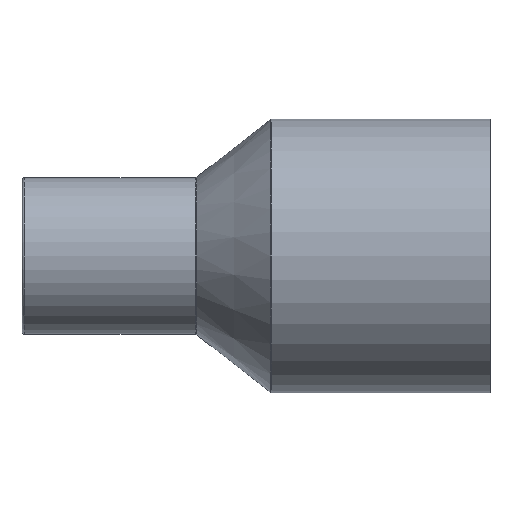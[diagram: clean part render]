
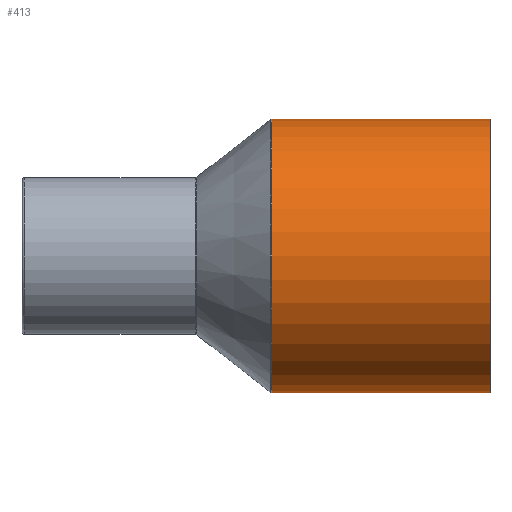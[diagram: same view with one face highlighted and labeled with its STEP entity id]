
A CAD part, front view. The second image highlights one B-rep face of the part: STEP entity #413.
In plain terms, the highlighted cylindrical face has radius 55 mm (diameter 110 mm), a partial arc.
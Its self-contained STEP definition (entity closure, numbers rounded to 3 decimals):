
#13 = CIRCLE ( 'NONE', #661, 55. ) ;
#27 = ORIENTED_EDGE ( 'NONE', *, *, #420, .F. ) ;
#28 = ORIENTED_EDGE ( 'NONE', *, *, #439, .F. ) ;
#29 = ORIENTED_EDGE ( 'NONE', *, *, #431, .T. ) ;
#30 = ORIENTED_EDGE ( 'NONE', *, *, #437, .T. ) ;
#100 = CYLINDRICAL_SURFACE ( 'NONE', #156, 55. ) ;
#105 = FACE_OUTER_BOUND ( 'NONE', #464, .T. ) ;
#107 = DIRECTION ( 'NONE',  ( -1., 0., 0. ) ) ;
#108 = CARTESIAN_POINT ( 'NONE',  ( 188., 0., 0. ) ) ;
#109 = DIRECTION ( 'NONE',  ( 0., 0., 1. ) ) ;
#126 = LINE ( 'NONE', #133, #396 ) ;
#133 = CARTESIAN_POINT ( 'NONE',  ( 188., 0., -55. ) ) ;
#134 = DIRECTION ( 'NONE',  ( -1., 0., 0. ) ) ;
#155 = CIRCLE ( 'NONE', #696, 55. ) ;
#156 = AXIS2_PLACEMENT_3D ( 'NONE', #108, #107, #109 ) ;
#244 = LINE ( 'NONE', #245, #697 ) ;
#245 = CARTESIAN_POINT ( 'NONE',  ( 188., 0., 55. ) ) ;
#331 = CARTESIAN_POINT ( 'NONE',  ( 188., 0., -55. ) ) ;
#346 = CARTESIAN_POINT ( 'NONE',  ( 100.345, 0., 55. ) ) ;
#347 = CARTESIAN_POINT ( 'NONE',  ( 100.345, 0., -55. ) ) ;
#349 = CARTESIAN_POINT ( 'NONE',  ( 188., 0., 55. ) ) ;
#361 = DIRECTION ( 'NONE',  ( -1., 0., 0. ) ) ;
#396 = VECTOR ( 'NONE', #134, 1000. ) ;
#413 = ADVANCED_FACE ( 'NONE', ( #105 ), #100, .T. ) ;
#420 = EDGE_CURVE ( 'NONE', #566, #569, #126, .T. ) ;
#431 = EDGE_CURVE ( 'NONE', #571, #568, #244, .T. ) ;
#437 = EDGE_CURVE ( 'NONE', #568, #569, #155, .T. ) ;
#439 = EDGE_CURVE ( 'NONE', #571, #566, #13, .T. ) ;
#464 = EDGE_LOOP ( 'NONE', ( #27, #28, #29, #30 ) ) ;
#566 = VERTEX_POINT ( 'NONE', #331 ) ;
#568 = VERTEX_POINT ( 'NONE', #346 ) ;
#569 = VERTEX_POINT ( 'NONE', #347 ) ;
#571 = VERTEX_POINT ( 'NONE', #349 ) ;
#661 = AXIS2_PLACEMENT_3D ( 'NONE', #679, #680, #681 ) ;
#673 = CARTESIAN_POINT ( 'NONE',  ( 100.345, 0., 0. ) ) ;
#674 = DIRECTION ( 'NONE',  ( 1., 0., 0. ) ) ;
#675 = DIRECTION ( 'NONE',  ( 0., 0., 1. ) ) ;
#679 = CARTESIAN_POINT ( 'NONE',  ( 188., 0., 0. ) ) ;
#680 = DIRECTION ( 'NONE',  ( 1., 0., 0. ) ) ;
#681 = DIRECTION ( 'NONE',  ( 0., 0., -1. ) ) ;
#696 = AXIS2_PLACEMENT_3D ( 'NONE', #673, #674, #675 ) ;
#697 = VECTOR ( 'NONE', #361, 1000. ) ;
